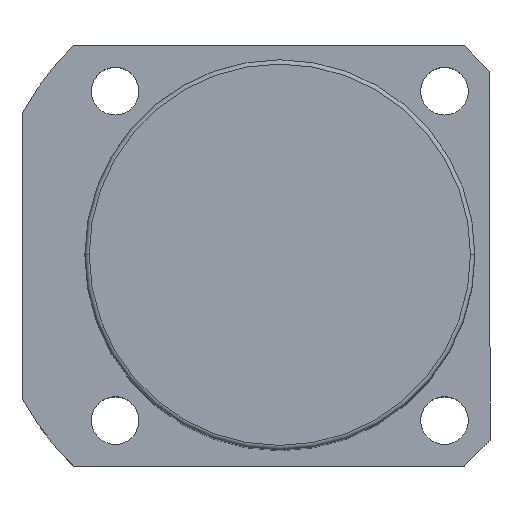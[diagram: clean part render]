
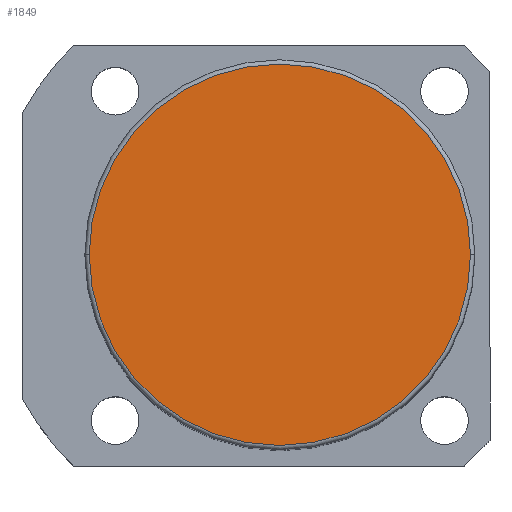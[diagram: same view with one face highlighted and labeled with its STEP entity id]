
A CAD part, top view. The second image highlights one B-rep face of the part: STEP entity #1849.
In plain terms, the highlighted planar face has unit normal (0, 0, 1).
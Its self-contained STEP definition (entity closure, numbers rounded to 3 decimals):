
#68 = CIRCLE ( 'NONE', #204, 44. ) ;
#80 = EDGE_CURVE ( 'NONE', #992, #269, #68, .T. ) ;
#168 = PLANE ( 'NONE',  #1337 ) ;
#204 = AXIS2_PLACEMENT_3D ( 'NONE', #205, #1877, #1098 ) ;
#205 = CARTESIAN_POINT ( 'NONE',  ( 0., 0., 161.5 ) ) ;
#238 = CARTESIAN_POINT ( 'NONE',  ( 44., 0., 161.5 ) ) ;
#269 = VERTEX_POINT ( 'NONE', #238 ) ;
#283 = DIRECTION ( 'NONE',  ( 0., 0., 1. ) ) ;
#284 = EDGE_CURVE ( 'NONE', #269, #992, #1106, .T. ) ;
#331 = DIRECTION ( 'NONE',  ( 1., 0., 0. ) ) ;
#470 = EDGE_LOOP ( 'NONE', ( #1593, #906 ) ) ;
#519 = CARTESIAN_POINT ( 'NONE',  ( 0., 0., 161.5 ) ) ;
#590 = FACE_OUTER_BOUND ( 'NONE', #470, .T. ) ;
#666 = DIRECTION ( 'NONE',  ( 1., 0., 0. ) ) ;
#906 = ORIENTED_EDGE ( 'NONE', *, *, #80, .T. ) ;
#992 = VERTEX_POINT ( 'NONE', #1438 ) ;
#1098 = DIRECTION ( 'NONE',  ( 1., 0., 0. ) ) ;
#1106 = CIRCLE ( 'NONE', #1660, 44. ) ;
#1337 = AXIS2_PLACEMENT_3D ( 'NONE', #1866, #283, #331 ) ;
#1438 = CARTESIAN_POINT ( 'NONE',  ( -44., 0., 161.5 ) ) ;
#1589 = DIRECTION ( 'NONE',  ( 0., 0., 1. ) ) ;
#1593 = ORIENTED_EDGE ( 'NONE', *, *, #284, .T. ) ;
#1660 = AXIS2_PLACEMENT_3D ( 'NONE', #519, #1589, #666 ) ;
#1849 = ADVANCED_FACE ( 'NONE', ( #590 ), #168, .T. ) ;
#1866 = CARTESIAN_POINT ( 'NONE',  ( 0., 0., 161.5 ) ) ;
#1877 = DIRECTION ( 'NONE',  ( 0., 0., 1. ) ) ;
